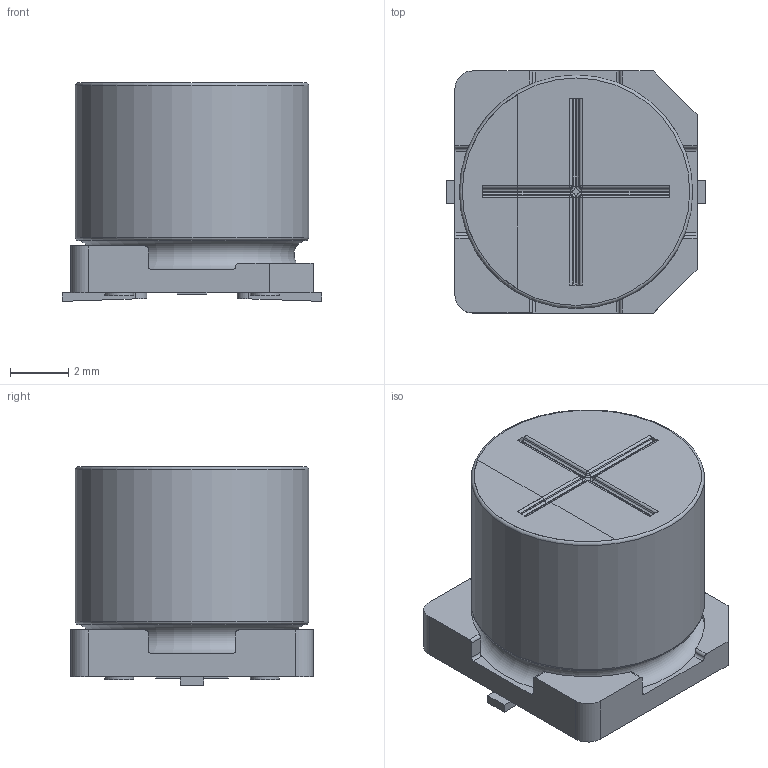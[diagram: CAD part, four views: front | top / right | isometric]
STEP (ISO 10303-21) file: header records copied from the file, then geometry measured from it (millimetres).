
FILE_DESCRIPTION(/* description */ (''),/* implementation_level */ '2;1');
FILE_NAME(/* name */ '8x7.5_Chip.stp',/* time_stamp */ '2017-09-04T17:38:25+09:00',/* author */ (''),/* organization */ (''),/* preprocessor_version */ 'ST-DEVELOPER v16',/* originating_system */ 'SIEMENS PLM Software NX 11.0',/* authorisation */ '');
FILE_SCHEMA (('AUTOMOTIVE_DESIGN { 1 0 10303 214 3 1 1 1 }'));
Length unit declared in the file: millimetre
Products named in the file (1): 8x7.5_Chip_0
Bounding box: 8.9 x 8.3 x 7.5 mm (x, y, z)
Volume: 373.9 mm3; surface area: 480.4 mm2
Topology: 5 solids, 5 shells, 132 faces, 330 edges, 210 vertices
Faces by surface type: plane 61, cylinder 60, sphere 4, bspline 4, torus 3
Full cylindrical faces by diameter (mm): 1 x4, 8 x1
Entity records: 4212 total; most frequent: CARTESIAN_POINT 919, DIRECTION 670, ORIENTED_EDGE 634, EDGE_CURVE 317, AXIS2_PLACEMENT_3D 240, VERTEX_POINT 209, LINE 190, VECTOR 190
